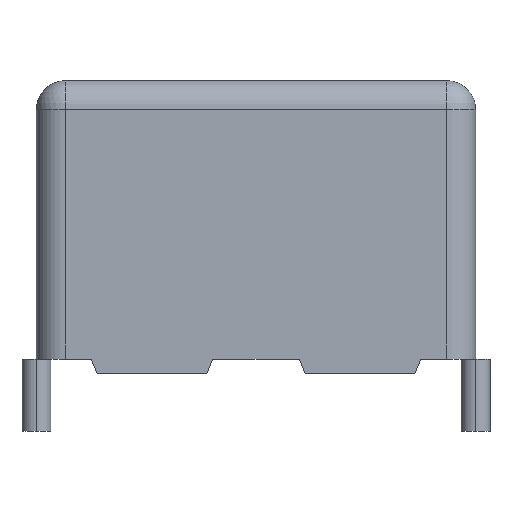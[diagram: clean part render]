
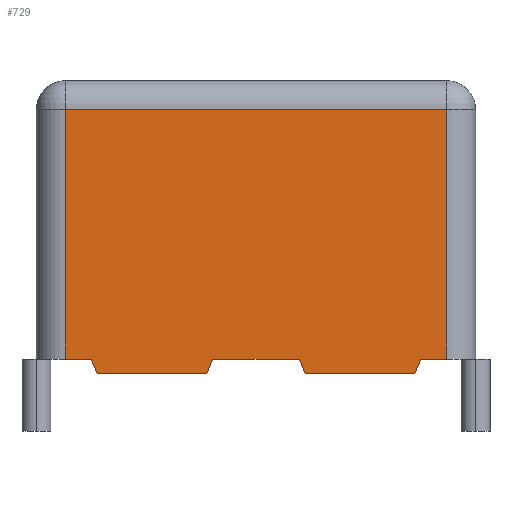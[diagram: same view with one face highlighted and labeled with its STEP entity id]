
A CAD part, top view. The second image highlights one B-rep face of the part: STEP entity #729.
In plain terms, the highlighted planar face has unit normal (0, 0, 1).
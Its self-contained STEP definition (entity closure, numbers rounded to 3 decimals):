
#446 = CARTESIAN_POINT ( 'NONE',  ( -2.758, 0., 1.905 ) ) ;
#447 = VERTEX_POINT ( 'NONE', #446 ) ;
#462 = CARTESIAN_POINT ( 'NONE',  ( -0.853, 0., 1.905 ) ) ;
#463 = VERTEX_POINT ( 'NONE', #462 ) ;
#470 = CARTESIAN_POINT ( 'NONE',  ( -3.81, 0., 1.905 ) ) ;
#471 = DIRECTION ( 'NONE',  ( 1., 0., 0. ) ) ;
#472 = VECTOR ( 'NONE', #471, 1000. ) ;
#473 = LINE ( 'NONE', #470, #472 ) ;
#474 = EDGE_CURVE ( 'NONE', #447, #463, #473, .T. ) ;
#526 = CARTESIAN_POINT ( 'NONE',  ( 0.853, 0., 1.905 ) ) ;
#527 = VERTEX_POINT ( 'NONE', #526 ) ;
#542 = CARTESIAN_POINT ( 'NONE',  ( 2.758, 0., 1.905 ) ) ;
#543 = VERTEX_POINT ( 'NONE', #542 ) ;
#550 = CARTESIAN_POINT ( 'NONE',  ( -3.81, 0., 1.905 ) ) ;
#551 = DIRECTION ( 'NONE',  ( 1., 0., 0. ) ) ;
#552 = VECTOR ( 'NONE', #551, 1000. ) ;
#553 = LINE ( 'NONE', #550, #552 ) ;
#554 = EDGE_CURVE ( 'NONE', #527, #543, #553, .T. ) ;
#644 = CARTESIAN_POINT ( 'NONE',  ( 3.31, 0.25, 1.905 ) ) ;
#645 = VERTEX_POINT ( 'NONE', #644 ) ;
#646 = CARTESIAN_POINT ( 'NONE',  ( 2.858, 0.25, 1.905 ) ) ;
#647 = VERTEX_POINT ( 'NONE', #646 ) ;
#648 = CARTESIAN_POINT ( 'NONE',  ( 3.81, 0.25, 1.905 ) ) ;
#649 = DIRECTION ( 'NONE',  ( -1., 0., 0. ) ) ;
#650 = VECTOR ( 'NONE', #649, 1000. ) ;
#651 = LINE ( 'NONE', #648, #650 ) ;
#652 = EDGE_CURVE ( 'NONE', #645, #647, #651, .T. ) ;
#653 = ORIENTED_EDGE ( 'NONE', *, *, #652, .F. ) ;
#654 = CARTESIAN_POINT ( 'NONE',  ( 3.31, 4.58, 1.905 ) ) ;
#655 = VERTEX_POINT ( 'NONE', #654 ) ;
#656 = CARTESIAN_POINT ( 'NONE',  ( 3.31, 5.08, 1.905 ) ) ;
#657 = DIRECTION ( 'NONE',  ( 0., 1., 0. ) ) ;
#658 = VECTOR ( 'NONE', #657, 1000. ) ;
#659 = LINE ( 'NONE', #656, #658 ) ;
#660 = EDGE_CURVE ( 'NONE', #645, #655, #659, .T. ) ;
#661 = ORIENTED_EDGE ( 'NONE', *, *, #660, .T. ) ;
#662 = CARTESIAN_POINT ( 'NONE',  ( -3.31, 4.58, 1.905 ) ) ;
#663 = VERTEX_POINT ( 'NONE', #662 ) ;
#664 = CARTESIAN_POINT ( 'NONE',  ( -3.81, 4.58, 1.905 ) ) ;
#665 = DIRECTION ( 'NONE',  ( -1., 0., 0. ) ) ;
#666 = VECTOR ( 'NONE', #665, 1000. ) ;
#667 = LINE ( 'NONE', #664, #666 ) ;
#668 = EDGE_CURVE ( 'NONE', #655, #663, #667, .T. ) ;
#669 = ORIENTED_EDGE ( 'NONE', *, *, #668, .T. ) ;
#670 = CARTESIAN_POINT ( 'NONE',  ( -3.31, 0.25, 1.905 ) ) ;
#671 = VERTEX_POINT ( 'NONE', #670 ) ;
#672 = CARTESIAN_POINT ( 'NONE',  ( -3.31, 0.25, 1.905 ) ) ;
#673 = DIRECTION ( 'NONE',  ( 0., -1., 0. ) ) ;
#674 = VECTOR ( 'NONE', #673, 1000. ) ;
#675 = LINE ( 'NONE', #672, #674 ) ;
#676 = EDGE_CURVE ( 'NONE', #663, #671, #675, .T. ) ;
#677 = ORIENTED_EDGE ( 'NONE', *, *, #676, .T. ) ;
#678 = CARTESIAN_POINT ( 'NONE',  ( -2.858, 0.25, 1.905 ) ) ;
#679 = VERTEX_POINT ( 'NONE', #678 ) ;
#680 = CARTESIAN_POINT ( 'NONE',  ( -3.81, 0.25, 1.905 ) ) ;
#681 = DIRECTION ( 'NONE',  ( -1., 0., 0. ) ) ;
#682 = VECTOR ( 'NONE', #681, 1000. ) ;
#683 = LINE ( 'NONE', #680, #682 ) ;
#684 = EDGE_CURVE ( 'NONE', #679, #671, #683, .T. ) ;
#685 = ORIENTED_EDGE ( 'NONE', *, *, #684, .F. ) ;
#686 = CARTESIAN_POINT ( 'NONE',  ( -2.858, 0.25, 1.905 ) ) ;
#687 = DIRECTION ( 'NONE',  ( -0.383, 0.924, 0. ) ) ;
#688 = VECTOR ( 'NONE', #687, 1000. ) ;
#689 = LINE ( 'NONE', #686, #688 ) ;
#690 = EDGE_CURVE ( 'NONE', #447, #679, #689, .T. ) ;
#691 = ORIENTED_EDGE ( 'NONE', *, *, #690, .F. ) ;
#692 = ORIENTED_EDGE ( 'NONE', *, *, #474, .T. ) ;
#693 = CARTESIAN_POINT ( 'NONE',  ( -0.753, 0.25, 1.905 ) ) ;
#694 = VERTEX_POINT ( 'NONE', #693 ) ;
#695 = CARTESIAN_POINT ( 'NONE',  ( -0.753, 0.25, 1.905 ) ) ;
#696 = DIRECTION ( 'NONE',  ( -0.383, -0.924, 0. ) ) ;
#697 = VECTOR ( 'NONE', #696, 1000. ) ;
#698 = LINE ( 'NONE', #695, #697 ) ;
#699 = EDGE_CURVE ( 'NONE', #694, #463, #698, .T. ) ;
#700 = ORIENTED_EDGE ( 'NONE', *, *, #699, .F. ) ;
#701 = CARTESIAN_POINT ( 'NONE',  ( 0.753, 0.25, 1.905 ) ) ;
#702 = VERTEX_POINT ( 'NONE', #701 ) ;
#703 = CARTESIAN_POINT ( 'NONE',  ( 0.753, 0.25, 1.905 ) ) ;
#704 = DIRECTION ( 'NONE',  ( -1., 0., 0. ) ) ;
#705 = VECTOR ( 'NONE', #704, 1000. ) ;
#706 = LINE ( 'NONE', #703, #705 ) ;
#707 = EDGE_CURVE ( 'NONE', #702, #694, #706, .T. ) ;
#708 = ORIENTED_EDGE ( 'NONE', *, *, #707, .F. ) ;
#709 = CARTESIAN_POINT ( 'NONE',  ( 0.753, 0.25, 1.905 ) ) ;
#710 = DIRECTION ( 'NONE',  ( -0.383, 0.924, 0. ) ) ;
#711 = VECTOR ( 'NONE', #710, 1000. ) ;
#712 = LINE ( 'NONE', #709, #711 ) ;
#713 = EDGE_CURVE ( 'NONE', #527, #702, #712, .T. ) ;
#714 = ORIENTED_EDGE ( 'NONE', *, *, #713, .F. ) ;
#715 = ORIENTED_EDGE ( 'NONE', *, *, #554, .T. ) ;
#716 = CARTESIAN_POINT ( 'NONE',  ( 2.858, 0.25, 1.905 ) ) ;
#717 = DIRECTION ( 'NONE',  ( -0.383, -0.924, 0. ) ) ;
#718 = VECTOR ( 'NONE', #717, 1000. ) ;
#719 = LINE ( 'NONE', #716, #718 ) ;
#720 = EDGE_CURVE ( 'NONE', #647, #543, #719, .T. ) ;
#721 = ORIENTED_EDGE ( 'NONE', *, *, #720, .F. ) ;
#722 = EDGE_LOOP ( 'NONE', ( #653, #661, #669, #677, #685, #691, #692, #700, #708, #714, #715, #721 ) ) ;
#723 = FACE_OUTER_BOUND ( 'NONE', #722, .T. ) ;
#724 = CARTESIAN_POINT ( 'NONE',  ( -3.81, 0., 1.905 ) ) ;
#725 = DIRECTION ( 'NONE',  ( 0., 0., 1. ) ) ;
#726 = DIRECTION ( 'NONE',  ( 1., 0., 0. ) ) ;
#727 = AXIS2_PLACEMENT_3D ( 'NONE', #724, #725, #726 ) ;
#728 = PLANE ( 'NONE', #727 ) ;
#729 = ADVANCED_FACE ( 'NONE', ( #723 ), #728, .T. ) ;
